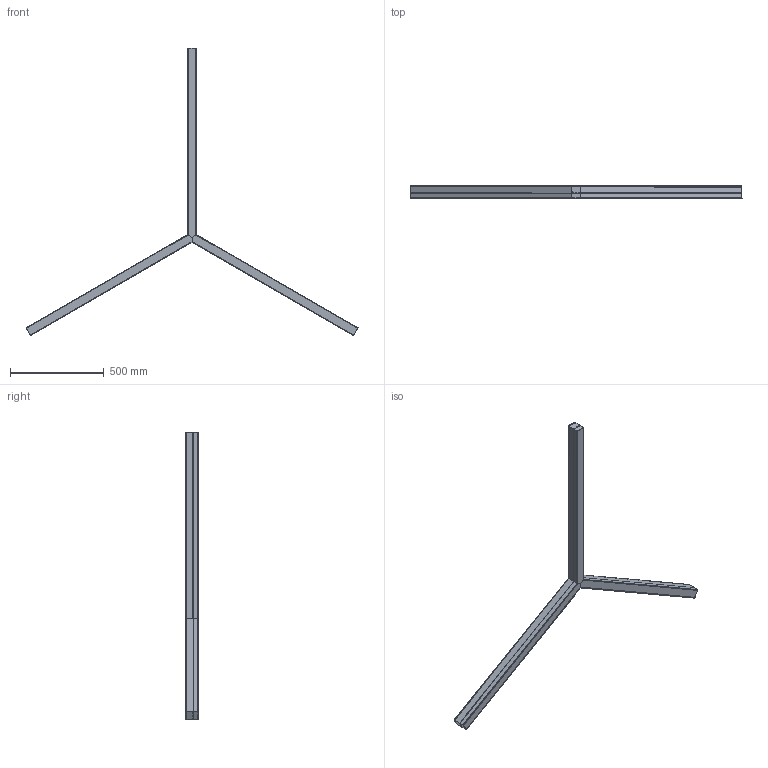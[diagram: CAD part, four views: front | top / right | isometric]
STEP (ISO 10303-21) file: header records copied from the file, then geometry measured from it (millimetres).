
FILE_DESCRIPTION(('STEP AP203'), '1');
FILE_NAME('Ìèêêî Òðèò 60Âò', '', ('UNSPECIFIED'), ('UNSPECIFIED'), 'ASCON STEP Converter 1.6', 'ASCON Math Kernel', '');
FILE_SCHEMA(('CONFIG_CONTROL_DESIGN'));
Length unit declared in the file: millimetre
Products named in the file (4): -01
Assembly tree (7 placements, depth 3):
  (unnamed)
    (unnamed)
      (unnamed)  x2
    -01  x2
      (unnamed)
Bounding box: 1770.91 x 70 x 1533.8 mm (x, y, z)
Volume: 1307583.9 mm3; surface area: 2009219.7 mm2
Topology: 16 solids, 16 shells, 800 faces, 2272 edges, 1528 vertices
Faces by surface type: cylinder 374, plane 370, bspline 24, cone 18, torus 14
Full cylindrical faces by diameter (mm): 2.9 x6, 6.3 x6, 8 x1, 10 x2, 14 x2
Entity records: 15916 total; most frequent: CARTESIAN_POINT 3624, ORIENTED_EDGE 2642, DIRECTION 2304, EDGE_CURVE 1321, VERTEX_POINT 889, LINE 800, VECTOR 800, AXIS2_PLACEMENT_3D 752
